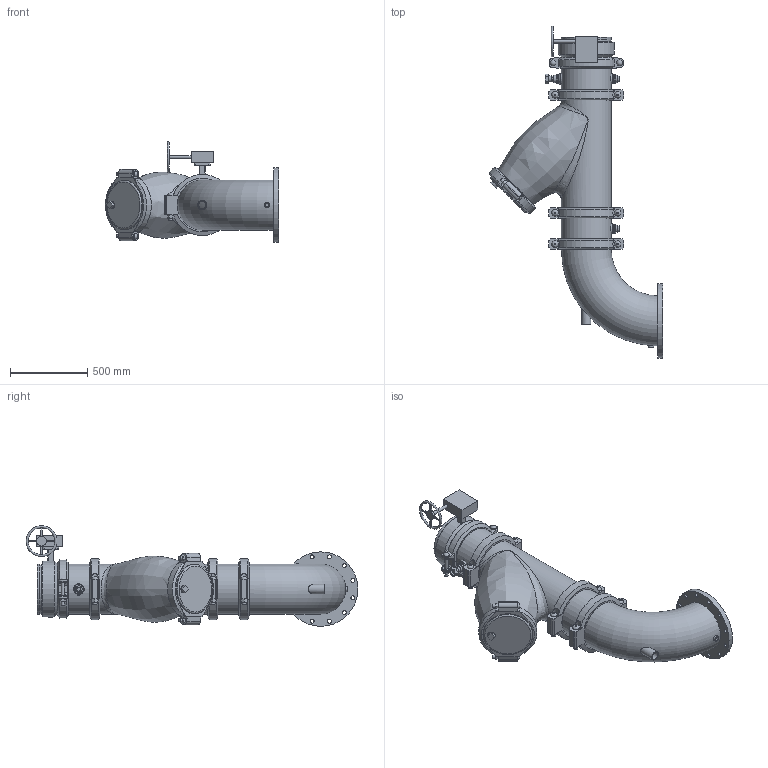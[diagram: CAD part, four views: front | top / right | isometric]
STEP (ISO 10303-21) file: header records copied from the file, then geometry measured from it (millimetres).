
FILE_DESCRIPTION(/* description */ ('VIC SVI PUMP DROP HORZ S/382 (OGSxFLG) (S/924-1.25)','CAx-IF Rec.Pracs.---Representation and Presentation of Product Manufacturing Information (PMI)---4.0---2014-10-13'),/* implementation_level */ '2;1');
FILE_NAME(/* name */ 'C:\Users\Vjadhav\AppData\Roaming\Autodesk\ApplicationPlugins\Victaulic.Temp\A562\Victaulic_IPS_Horizontal SVI_CL 150_Series 382 (OGSxFLG)_924 (1.25)_12.0x12.0 (300x300).stp',/* time_stamp */ '2022-02-28T20:01:29+06:00',/* author */ ('kkamble'),/* organization */ ('Victaulic'),/* preprocessor_version */ 'ST-DEVELOPER v17.2',/* originating_system */ 'Autodesk Inventor 2019',/* authorisation */ '');
FILE_SCHEMA (('AP242_MANAGED_MODEL_BASED_3D_ENGINEERING_MIM_LF { 1 0 10303 442 1 1 4 }'));
Length unit declared in the file: inch
Products named in the file (13): 382_924 (1.25)-12.0x12.0; PIPE-12.0; 107N-12.0; 732-12.0; 732-12.0_1; 07-12.0; 732-12.0_2; 077-12.0; PIPE-12.3; 761-12.0; 924-10.0x01.25; 923-10.0x0.75; 100F-12.0
Assembly tree (15 placements, depth 3):
  382_924 (1.25)-12.0x12.0
    PIPE-12.0
    107N-12.0
    732-12.0
      732-12.0_1
      07-12.0
      732-12.0_2
    077-12.0  x3
    PIPE-12.3
    761-12.0
    924-10.0x01.25
    923-10.0x0.75  x2
    100F-12.0
Bounding box: 1123.95 x 2152.32 x 652.25 mm (x, y, z)
Volume: 49468761.9 mm3; surface area: 7577599.6 mm2
Topology: 14 solids, 24 shells, 762 faces, 1893 edges, 1277 vertices
Faces by surface type: plane 427, cylinder 260, bspline 32, cone 27, torus 12, sphere 4
Full cylindrical faces by diameter (mm): 10.922 x4, 20.066 x1, 20.93 x1, 21.336 x3, 22.225 x8, 22.86 x1, 25.4 x24, 26.67 x5, 27.432 x6, 31.75 x1, 34.29 x1, 37.694 x4, 38.608 x1, 42.164 x1, 45.974 x6, 48.26 x1, 48.514 x1, 50.8 x1, 55.626 x3, 60.96 x1, 63.079 x1, 70.104 x1, 76.2 x2, 292.1 x1, 303.225 x1, 304.216 x1, 304.546 x1, 304.8 x4, 311.15 x2, 314.96 x3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
Entity records: 23713 total; most frequent: CARTESIAN_POINT 8126, DIRECTION 3155, ORIENTED_EDGE 2906, EDGE_CURVE 1453, AXIS2_PLACEMENT_3D 1213, VERTEX_POINT 984, EDGE_LOOP 731, LINE 729
